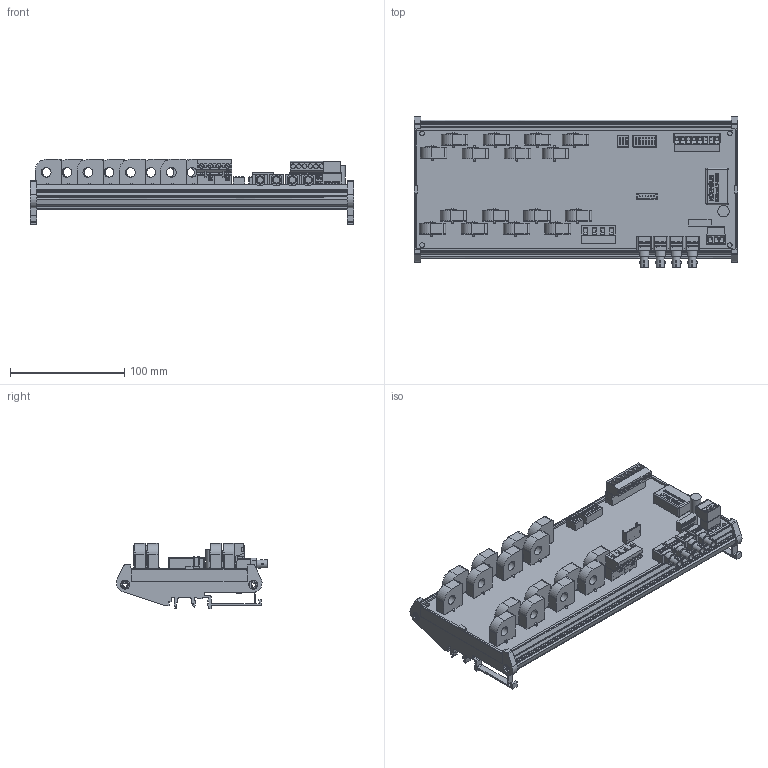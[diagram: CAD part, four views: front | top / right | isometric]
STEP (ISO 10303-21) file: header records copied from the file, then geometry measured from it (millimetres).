
FILE_DESCRIPTION(('FreeCAD Model'),'2;1');
FILE_NAME('C:/3D Files/Stringhe/ST0HS/ST0HS16xx DR/ST0HS16xx DR.step', '2023-01-13T09:17:35',('Author'),(''), 'Open CASCADE STEP processor 7.3','FreeCAD','Unknown');
FILE_SCHEMA(('AUTOMOTIVE_DESIGN { 1 0 10303 214 1 1 1 1 }'));
Length unit declared in the file: millimetre
Products named in the file (36): ST0HS16xx_DR; AmpModu_6P_M; DipSwitch8; DipSwitch4; IB2405LS-1W; WRB2403ZP-6WR003; ELNA_470_uF_35_V; Mstb_03P_F; Mstb_03Pc_M; SH04-7,62; PV02-7,62-V-Pa; PV02-7,62-V-Pb; Mstb_8P_F; Mstb_8Pc_M; CHK-LSP5S2L-BP-CH_09; CHK-LSP5S2L-BP-CH_10; CHK-LSP5S2L-BP-CH_11; CHK-LSP5S2L-BP-CH_12; CHK-LSP5S2L-BP-CH_13; CHK-LSP5S2L-BP-CH_14; CHK-LSP5S2L-BP-CH_15; CHK-LSP5S2L-BP-CH_16; CHK-LSP5S2L-BP-CH_05; CHK-LSP5S2L-BP-CH_06; CHK-LSP5S2L-BP-CH_07; CHK-LSP5S2L-BP-CH_08; CHK-LSP5S2L-BP-CH_01; CHK-LSP5S2L-BP-CH_02; CHK-LSP5S2L-BP-CH_03; CHK-LSP5S2L-BP-CH_04; Stampato_279,7_x_108; Profilo_284x128; HFBR-x41xTZ001; HFBR-x41xTZ002; HFBR-x41xTZ003; HFBR-x41xTZ004
Assembly tree (35 placements, depth 2):
  ST0HS16xx_DR
    AmpModu_6P_M
    DipSwitch8
    DipSwitch4
    IB2405LS-1W
    WRB2403ZP-6WR003
    ELNA_470_uF_35_V
    Mstb_03P_F
    Mstb_03Pc_M
    SH04-7,62
    PV02-7,62-V-Pa
    PV02-7,62-V-Pb
    Mstb_8P_F
    Mstb_8Pc_M
    CHK-LSP5S2L-BP-CH_09
    CHK-LSP5S2L-BP-CH_10
    CHK-LSP5S2L-BP-CH_11
    CHK-LSP5S2L-BP-CH_12
    CHK-LSP5S2L-BP-CH_13
    CHK-LSP5S2L-BP-CH_14
    CHK-LSP5S2L-BP-CH_15
    CHK-LSP5S2L-BP-CH_16
    CHK-LSP5S2L-BP-CH_05
    CHK-LSP5S2L-BP-CH_06
    CHK-LSP5S2L-BP-CH_07
    CHK-LSP5S2L-BP-CH_08
    CHK-LSP5S2L-BP-CH_01
    CHK-LSP5S2L-BP-CH_02
    CHK-LSP5S2L-BP-CH_03
    CHK-LSP5S2L-BP-CH_04
    Stampato_279,7_x_108
    Profilo_284x128
    HFBR-x41xTZ001
    HFBR-x41xTZ002
    HFBR-x41xTZ003
    HFBR-x41xTZ004
Bounding box: 284 x 132.43 x 57.69 mm (x, y, z)
Volume: 260929.4 mm3; surface area: 270846.8 mm2
Topology: 95 solids, 214 shells, 5639 faces, 18947 edges, 21719 vertices
Faces by surface type: plane 4241, cylinder 985, bspline 201, torus 152, cone 41, sphere 16, extrusion 3
Full cylindrical faces by diameter (mm): 0.5 x36, 0.75 x36, 1 x18, 1.5 x8, 1.6 x7, 3.8 x4, 4 x19, 4.3 x2, 5.6 x4, 7.1 x4, 7.9 x4, 9.202 x2, 10 x1
Entity records: 450768 total; most frequent: CARTESIAN_POINT 111536, DIRECTION 57532, VECTOR 39965, LINE 39962, ORIENTED_EDGE 30703, PCURVE 30703, DEFINITIONAL_REPRESENTATION 30703, EDGE_CURVE 16238
